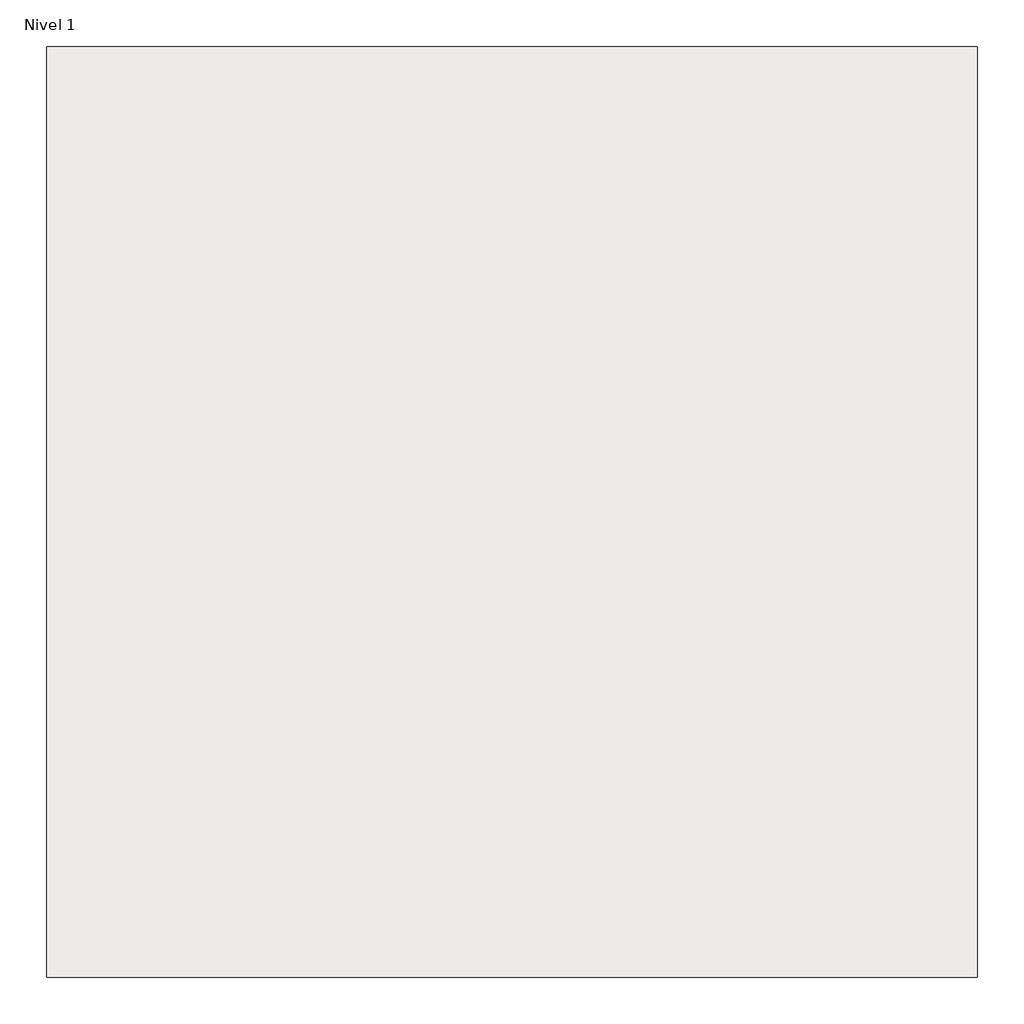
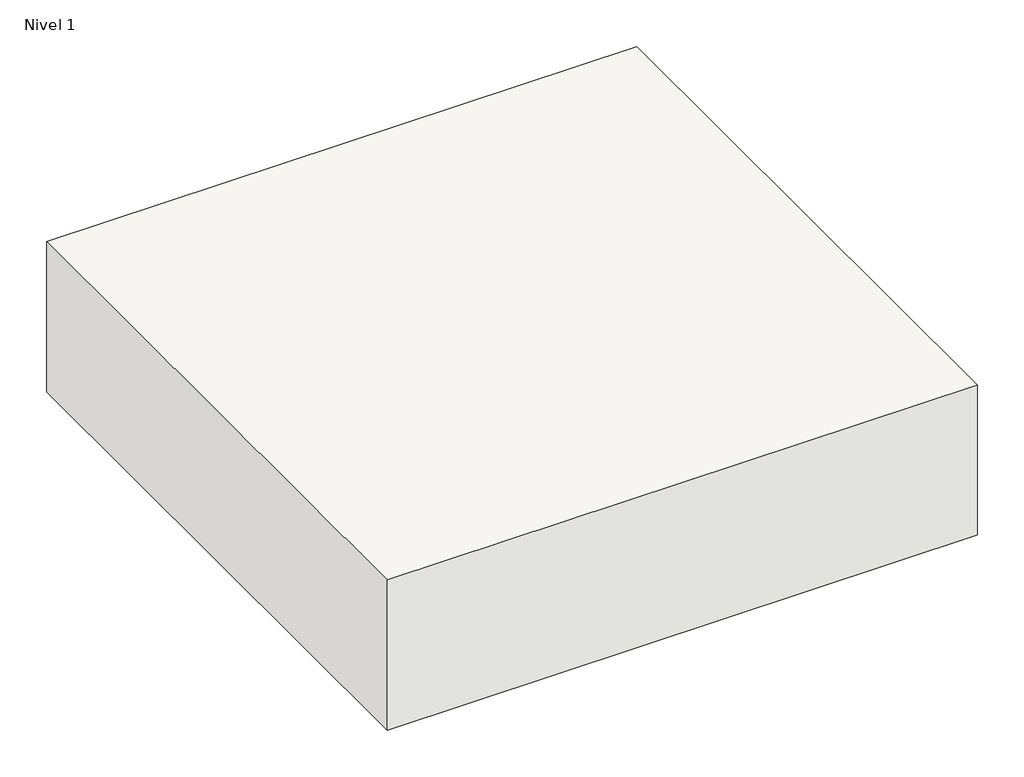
# One storey: 1 slab.
"""IFC4 building model written with IfcOpenShell, lengths in millimetres."""

from ifc_helpers import new_model, si_unit, frame, origin, place, context, project, spatial, polyline, outline, extrude, element, save

model = new_model("IFC4")

# Units and contexts
model_context = context("Model", 3, world=origin())
ifc_project = project(units=[si_unit("LENGTHUNIT", "METRE", prefix="MILLI")], contexts=[model_context])

# Site, building, storey
site = spatial("IfcSite", under=ifc_project)
building = spatial("IfcBuilding", under=site)
storey = spatial("IfcBuildingStorey", under=building, Name="Nivel 1", Elevation=0.0)

# Slab
placement = place(None, origin())
element("IfcSlab", 1, ObjectType="Suelo flotante estándar con ChovAIMPACT PLUS - Sistema S03", at=placement, inside=storey, context=model_context, shape_type="SweptSolid", body=[
    extrude(outline(polyline([(-3481.3346139, -2999.8684589), (-4481.3346139, -2999.8684589), (-4481.3346139, -1999.8684589), (-3481.3346139, -1999.8684589), (-3481.3346139, -2999.8684589)])), frame((0.0, 0.0, -269.0), z_axis=(0.0, 0.0, 1.0), x_axis=(1.0, 0.0, 0.0)), (0.0, 0.0, 1.0), 269.0),
])

save(model, "model.ifc")
